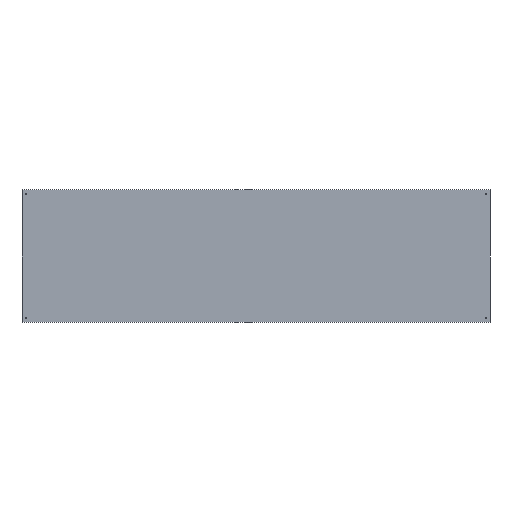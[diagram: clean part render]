
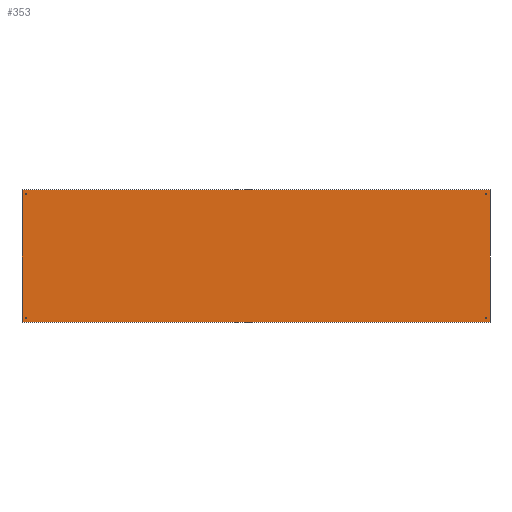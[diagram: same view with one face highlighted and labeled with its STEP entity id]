
A CAD part, top view. The second image highlights one B-rep face of the part: STEP entity #353.
In plain terms, the highlighted planar face has unit normal (0, 0, 1).
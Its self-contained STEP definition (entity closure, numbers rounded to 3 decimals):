
#30=FACE_BOUND('',#82,.T.);
#31=FACE_BOUND('',#83,.T.);
#32=FACE_BOUND('',#84,.T.);
#33=FACE_BOUND('',#85,.T.);
#42=CIRCLE('',#383,5.);
#43=CIRCLE('',#384,5.);
#44=CIRCLE('',#385,5.);
#45=CIRCLE('',#386,5.);
#46=CIRCLE('',#387,5.);
#47=CIRCLE('',#388,5.);
#48=CIRCLE('',#389,5.);
#49=CIRCLE('',#390,5.);
#59=FACE_OUTER_BOUND('',#81,.T.);
#81=EDGE_LOOP('',(#290,#291,#292,#293));
#82=EDGE_LOOP('',(#294,#295));
#83=EDGE_LOOP('',(#296,#297));
#84=EDGE_LOOP('',(#298,#299));
#85=EDGE_LOOP('',(#300,#301));
#101=LINE('',#524,#133);
#103=LINE('',#530,#135);
#110=LINE('',#543,#142);
#117=LINE('',#572,#149);
#133=VECTOR('',#413,304.8);
#135=VECTOR('',#417,304.8);
#142=VECTOR('',#426,304.8);
#149=VECTOR('',#461,304.8);
#158=VERTEX_POINT('',#509);
#165=VERTEX_POINT('',#522);
#167=VERTEX_POINT('',#527);
#168=VERTEX_POINT('',#529);
#182=VERTEX_POINT('',#574);
#183=VERTEX_POINT('',#575);
#184=VERTEX_POINT('',#578);
#185=VERTEX_POINT('',#579);
#186=VERTEX_POINT('',#582);
#187=VERTEX_POINT('',#583);
#188=VERTEX_POINT('',#586);
#189=VERTEX_POINT('',#587);
#197=EDGE_CURVE('',#165,#158,#101,.T.);
#199=EDGE_CURVE('',#167,#168,#103,.T.);
#206=EDGE_CURVE('',#158,#167,#110,.T.);
#221=EDGE_CURVE('',#168,#165,#117,.T.);
#222=EDGE_CURVE('',#182,#183,#42,.T.);
#223=EDGE_CURVE('',#183,#182,#43,.T.);
#224=EDGE_CURVE('',#184,#185,#44,.T.);
#225=EDGE_CURVE('',#185,#184,#45,.T.);
#226=EDGE_CURVE('',#186,#187,#46,.T.);
#227=EDGE_CURVE('',#187,#186,#47,.T.);
#228=EDGE_CURVE('',#188,#189,#48,.T.);
#229=EDGE_CURVE('',#189,#188,#49,.T.);
#290=ORIENTED_EDGE('',*,*,#197,.F.);
#291=ORIENTED_EDGE('',*,*,#221,.F.);
#292=ORIENTED_EDGE('',*,*,#199,.F.);
#293=ORIENTED_EDGE('',*,*,#206,.F.);
#294=ORIENTED_EDGE('',*,*,#222,.T.);
#295=ORIENTED_EDGE('',*,*,#223,.T.);
#296=ORIENTED_EDGE('',*,*,#224,.T.);
#297=ORIENTED_EDGE('',*,*,#225,.T.);
#298=ORIENTED_EDGE('',*,*,#226,.T.);
#299=ORIENTED_EDGE('',*,*,#227,.T.);
#300=ORIENTED_EDGE('',*,*,#228,.T.);
#301=ORIENTED_EDGE('',*,*,#229,.T.);
#343=PLANE('',#382);
#353=ADVANCED_FACE('',(#59,#30,#31,#32,#33),#343,.T.);
#382=AXIS2_PLACEMENT_3D('',#573,#462,#463);
#383=AXIS2_PLACEMENT_3D('',#576,#464,#465);
#384=AXIS2_PLACEMENT_3D('',#577,#466,#467);
#385=AXIS2_PLACEMENT_3D('',#580,#468,#469);
#386=AXIS2_PLACEMENT_3D('',#581,#470,#471);
#387=AXIS2_PLACEMENT_3D('',#584,#472,#473);
#388=AXIS2_PLACEMENT_3D('',#585,#474,#475);
#389=AXIS2_PLACEMENT_3D('',#588,#476,#477);
#390=AXIS2_PLACEMENT_3D('',#589,#478,#479);
#413=DIRECTION('',(0.,-1.,0.));
#417=DIRECTION('',(0.,1.,0.));
#426=DIRECTION('',(-1.,0.,0.));
#461=DIRECTION('',(1.,0.,0.));
#462=DIRECTION('center_axis',(0.,0.,1.));
#463=DIRECTION('ref_axis',(-1.,0.,0.));
#464=DIRECTION('center_axis',(0.,0.,-1.));
#465=DIRECTION('ref_axis',(1.,0.,0.));
#466=DIRECTION('center_axis',(0.,0.,-1.));
#467=DIRECTION('ref_axis',(1.,0.,0.));
#468=DIRECTION('center_axis',(0.,0.,-1.));
#469=DIRECTION('ref_axis',(1.,0.,0.));
#470=DIRECTION('center_axis',(0.,0.,-1.));
#471=DIRECTION('ref_axis',(1.,0.,0.));
#472=DIRECTION('center_axis',(0.,0.,-1.));
#473=DIRECTION('ref_axis',(1.,0.,0.));
#474=DIRECTION('center_axis',(0.,0.,-1.));
#475=DIRECTION('ref_axis',(1.,0.,0.));
#476=DIRECTION('center_axis',(0.,0.,-1.));
#477=DIRECTION('ref_axis',(1.,0.,0.));
#478=DIRECTION('center_axis',(0.,0.,-1.));
#479=DIRECTION('ref_axis',(1.,0.,0.));
#509=CARTESIAN_POINT('',(3000.,-425.,1.5));
#522=CARTESIAN_POINT('',(3000.,425.,1.5));
#524=CARTESIAN_POINT('',(3000.,425.,1.5));
#527=CARTESIAN_POINT('',(0.,-425.,1.5));
#529=CARTESIAN_POINT('',(0.,425.,1.5));
#530=CARTESIAN_POINT('',(0.,-425.,1.5));
#543=CARTESIAN_POINT('',(3000.,-425.,1.5));
#572=CARTESIAN_POINT('',(3000.,425.,1.5));
#573=CARTESIAN_POINT('Origin',(3000.,425.,1.5));
#574=CARTESIAN_POINT('',(30.,398.5,1.5));
#575=CARTESIAN_POINT('',(20.,398.5,1.5));
#576=CARTESIAN_POINT('Origin',(25.,398.5,1.5));
#577=CARTESIAN_POINT('Origin',(25.,398.5,1.5));
#578=CARTESIAN_POINT('',(30.,-398.5,1.5));
#579=CARTESIAN_POINT('',(20.,-398.5,1.5));
#580=CARTESIAN_POINT('Origin',(25.,-398.5,1.5));
#581=CARTESIAN_POINT('Origin',(25.,-398.5,1.5));
#582=CARTESIAN_POINT('',(2980.,398.5,1.5));
#583=CARTESIAN_POINT('',(2970.,398.5,1.5));
#584=CARTESIAN_POINT('Origin',(2975.,398.5,1.5));
#585=CARTESIAN_POINT('Origin',(2975.,398.5,1.5));
#586=CARTESIAN_POINT('',(2980.,-398.5,1.5));
#587=CARTESIAN_POINT('',(2970.,-398.5,1.5));
#588=CARTESIAN_POINT('Origin',(2975.,-398.5,1.5));
#589=CARTESIAN_POINT('Origin',(2975.,-398.5,1.5));
